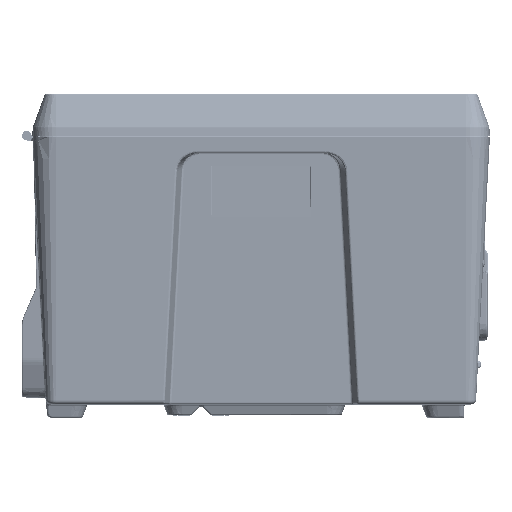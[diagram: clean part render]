
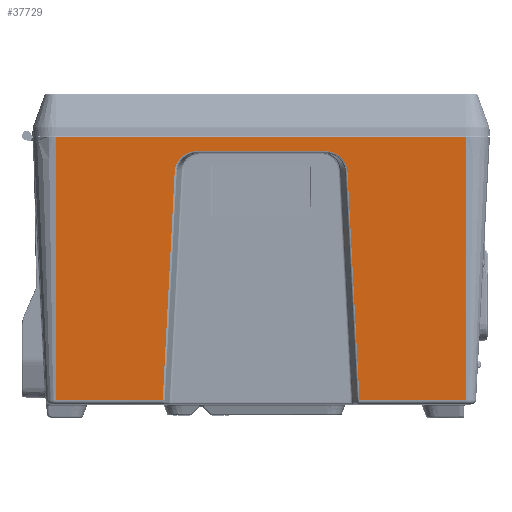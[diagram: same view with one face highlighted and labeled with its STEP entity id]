
A CAD part, left-side view. The second image highlights one B-rep face of the part: STEP entity #37729.
In plain terms, the highlighted planar face has unit normal (-0.999, 0, -0.052).
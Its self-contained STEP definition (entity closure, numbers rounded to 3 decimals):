
#28183=ELLIPSE('',#184290,18.189,17.);
#28184=ELLIPSE('',#184297,18.189,17.);
#37729=ADVANCED_FACE('',(#51054),#42434,.T.);
#42434=PLANE('',#184371);
#51054=FACE_OUTER_BOUND('',#61226,.T.);
#61226=EDGE_LOOP('',(#97166,#97167,#97168,#97169,#97170,#97171,#97172,#97173,
#97174,#97175));
#97166=ORIENTED_EDGE('',*,*,#142317,.T.);
#97167=ORIENTED_EDGE('',*,*,#142307,.T.);
#97168=ORIENTED_EDGE('',*,*,#142310,.T.);
#97169=ORIENTED_EDGE('',*,*,#142311,.T.);
#97170=ORIENTED_EDGE('',*,*,#142313,.T.);
#97171=ORIENTED_EDGE('',*,*,#142411,.F.);
#97172=ORIENTED_EDGE('',*,*,#134858,.T.);
#97173=ORIENTED_EDGE('',*,*,#142410,.T.);
#97174=ORIENTED_EDGE('',*,*,#142314,.T.);
#97175=ORIENTED_EDGE('',*,*,#142315,.T.);
#116772=VERTEX_POINT('',#293453);
#116773=VERTEX_POINT('',#293455);
#121768=VERTEX_POINT('',#332688);
#121771=VERTEX_POINT('',#332713);
#122025=VERTEX_POINT('',#338407);
#122026=VERTEX_POINT('',#338411);
#122027=VERTEX_POINT('',#338413);
#122028=VERTEX_POINT('',#338417);
#122029=VERTEX_POINT('',#338452);
#122030=VERTEX_POINT('',#338458);
#134858=EDGE_CURVE('',#116773,#116772,#152226,.T.);
#142307=EDGE_CURVE('',#122027,#122026,#156210,.T.);
#142310=EDGE_CURVE('',#122026,#122028,#28183,.T.);
#142311=EDGE_CURVE('',#122028,#121768,#156211,.T.);
#142313=EDGE_CURVE('',#121768,#122029,#156212,.T.);
#142314=EDGE_CURVE('',#122025,#121771,#156213,.T.);
#142315=EDGE_CURVE('',#121771,#122030,#156214,.T.);
#142317=EDGE_CURVE('',#122030,#122027,#28184,.T.);
#142410=EDGE_CURVE('',#116772,#122025,#156244,.T.);
#142411=EDGE_CURVE('',#116773,#122029,#156245,.T.);
#152226=LINE('',#293454,#164438);
#156210=LINE('',#338412,#168422);
#156211=LINE('',#338449,#168423);
#156212=LINE('',#338453,#168424);
#156213=LINE('',#338455,#168425);
#156214=LINE('',#338457,#168426);
#156244=LINE('',#339254,#168456);
#156245=LINE('',#339256,#168457);
#164438=VECTOR('',#208156,1.);
#168422=VECTOR('',#220470,1.);
#168423=VECTOR('',#220479,1.);
#168424=VECTOR('',#220484,1.);
#168425=VECTOR('',#220487,1.);
#168426=VECTOR('',#220490,1.);
#168456=VECTOR('',#220670,1.);
#168457=VECTOR('',#220673,1.);
#184290=AXIS2_PLACEMENT_3D('',#338418,#220477,#220478);
#184297=AXIS2_PLACEMENT_3D('',#338461,#220495,#220496);
#184371=AXIS2_PLACEMENT_3D('',#339257,#220674,#220675);
#208156=DIRECTION('',(0.,1.,0.));
#220470=DIRECTION('',(0.,-1.,0.));
#220477=DIRECTION('',(0.999,0.,0.052));
#220478=DIRECTION('',(-0.011,0.978,0.207));
#220479=DIRECTION('',(0.052,-0.052,-0.997));
#220484=DIRECTION('',(0.,-1.,0.));
#220487=DIRECTION('',(0.,-1.,0.));
#220490=DIRECTION('',(-0.052,-0.052,0.997));
#220495=DIRECTION('',(0.999,0.,0.052));
#220496=DIRECTION('',(0.011,0.978,-0.207));
#220670=DIRECTION('',(0.052,0.,-0.999));
#220673=DIRECTION('',(0.052,0.,-0.999));
#220674=DIRECTION('',(-0.999,0.,-0.052));
#220675=DIRECTION('',(0.052,0.,-0.999));
#293453=CARTESIAN_POINT('',(-294.948,-24.5,-1.));
#293454=CARTESIAN_POINT('',(-294.948,-24.5,-1.));
#293455=CARTESIAN_POINT('',(-294.948,-366.,-1.));
#332688=CARTESIAN_POINT('',(-283.459,-277.224,-220.209));
#332713=CARTESIAN_POINT('',(-283.459,-113.276,-220.209));
#338407=CARTESIAN_POINT('',(-283.459,-24.5,-220.209));
#338411=CARTESIAN_POINT('',(-294.327,-248.615,-12.839));
#338412=CARTESIAN_POINT('',(-294.327,-141.082,-12.839));
#338413=CARTESIAN_POINT('',(-294.327,-141.885,-12.839));
#338417=CARTESIAN_POINT('',(-293.454,-267.229,-29.497));
#338418=CARTESIAN_POINT('',(-293.435,-249.111,-29.869));
#338449=CARTESIAN_POINT('',(-293.447,-267.236,-29.625));
#338452=CARTESIAN_POINT('',(-283.459,-366.,-220.209));
#338453=CARTESIAN_POINT('',(-283.459,-24.5,-220.209));
#338455=CARTESIAN_POINT('',(-283.459,-24.5,-220.209));
#338457=CARTESIAN_POINT('',(-283.463,-113.28,-220.137));
#338458=CARTESIAN_POINT('',(-293.454,-123.271,-29.497));
#338461=CARTESIAN_POINT('',(-293.435,-141.389,-29.869));
#339254=CARTESIAN_POINT('',(-295.,-24.5,0.));
#339256=CARTESIAN_POINT('',(-295.,-366.,0.));
#339257=CARTESIAN_POINT('',(-295.,-24.5,0.));
